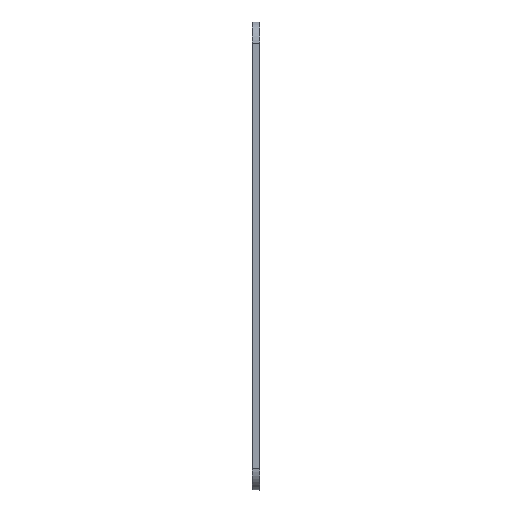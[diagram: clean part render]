
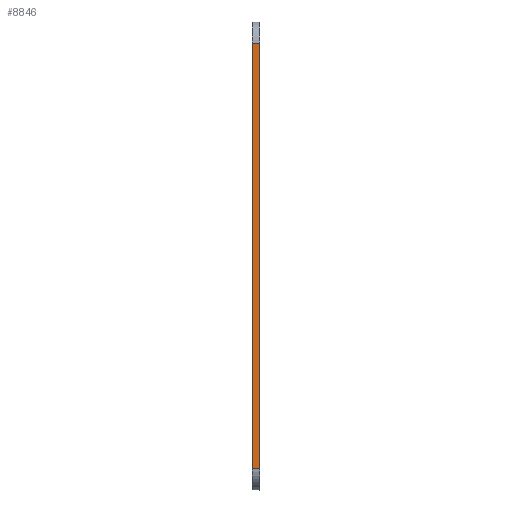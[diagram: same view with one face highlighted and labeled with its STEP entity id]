
A CAD part, left-side view. The second image highlights one B-rep face of the part: STEP entity #8846.
In plain terms, the highlighted planar face has unit normal (-1, 0, 0).
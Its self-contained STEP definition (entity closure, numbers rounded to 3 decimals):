
#217 = DIRECTION ( 'NONE',  ( 0., -1., 0. ) ) ;
#306 = VECTOR ( 'NONE', #2325, 1000. ) ;
#1037 = ORIENTED_EDGE ( 'NONE', *, *, #9541, .T. ) ;
#1366 = AXIS2_PLACEMENT_3D ( 'NONE', #8413, #6084, #217 ) ;
#2116 = CARTESIAN_POINT ( 'NONE',  ( -54., -1., 61. ) ) ;
#2268 = VECTOR ( 'NONE', #6571, 1000. ) ;
#2325 = DIRECTION ( 'NONE',  ( 0., -1., 0. ) ) ;
#2375 = CARTESIAN_POINT ( 'NONE',  ( -54., -1., -59. ) ) ;
#2424 = EDGE_CURVE ( 'NONE', #4134, #6844, #5282, .T. ) ;
#3083 = ORIENTED_EDGE ( 'NONE', *, *, #3963, .F. ) ;
#3125 = PLANE ( 'NONE',  #1366 ) ;
#3152 = DIRECTION ( 'NONE',  ( 0., 0., 1. ) ) ;
#3622 = LINE ( 'NONE', #4435, #2268 ) ;
#3876 = CARTESIAN_POINT ( 'NONE',  ( -54., 1., -59. ) ) ;
#3931 = DIRECTION ( 'NONE',  ( 0., -1., 0. ) ) ;
#3963 = EDGE_CURVE ( 'NONE', #8879, #6844, #8187, .T. ) ;
#4134 = VERTEX_POINT ( 'NONE', #2375 ) ;
#4175 = VERTEX_POINT ( 'NONE', #9363 ) ;
#4267 = ORIENTED_EDGE ( 'NONE', *, *, #6921, .F. ) ;
#4435 = CARTESIAN_POINT ( 'NONE',  ( -54., 1., 61. ) ) ;
#4554 = ORIENTED_EDGE ( 'NONE', *, *, #2424, .T. ) ;
#5282 = LINE ( 'NONE', #7495, #5691 ) ;
#5461 = FACE_OUTER_BOUND ( 'NONE', #7913, .T. ) ;
#5555 = CARTESIAN_POINT ( 'NONE',  ( -54., 1., 61. ) ) ;
#5691 = VECTOR ( 'NONE', #3152, 1000. ) ;
#5868 = CARTESIAN_POINT ( 'NONE',  ( -54., 1., 61. ) ) ;
#6084 = DIRECTION ( 'NONE',  ( 1., 0., 0. ) ) ;
#6571 = DIRECTION ( 'NONE',  ( 0., 0., 1. ) ) ;
#6844 = VERTEX_POINT ( 'NONE', #2116 ) ;
#6921 = EDGE_CURVE ( 'NONE', #4175, #8879, #3622, .T. ) ;
#7109 = VECTOR ( 'NONE', #3931, 1000. ) ;
#7495 = CARTESIAN_POINT ( 'NONE',  ( -54., -1., 61. ) ) ;
#7603 = LINE ( 'NONE', #3876, #7109 ) ;
#7913 = EDGE_LOOP ( 'NONE', ( #4554, #3083, #4267, #1037 ) ) ;
#8187 = LINE ( 'NONE', #5868, #306 ) ;
#8413 = CARTESIAN_POINT ( 'NONE',  ( -54., 1., 61. ) ) ;
#8846 = ADVANCED_FACE ( 'NONE', ( #5461 ), #3125, .F. ) ;
#8879 = VERTEX_POINT ( 'NONE', #5555 ) ;
#9363 = CARTESIAN_POINT ( 'NONE',  ( -54., 1., -59. ) ) ;
#9541 = EDGE_CURVE ( 'NONE', #4175, #4134, #7603, .T. ) ;
